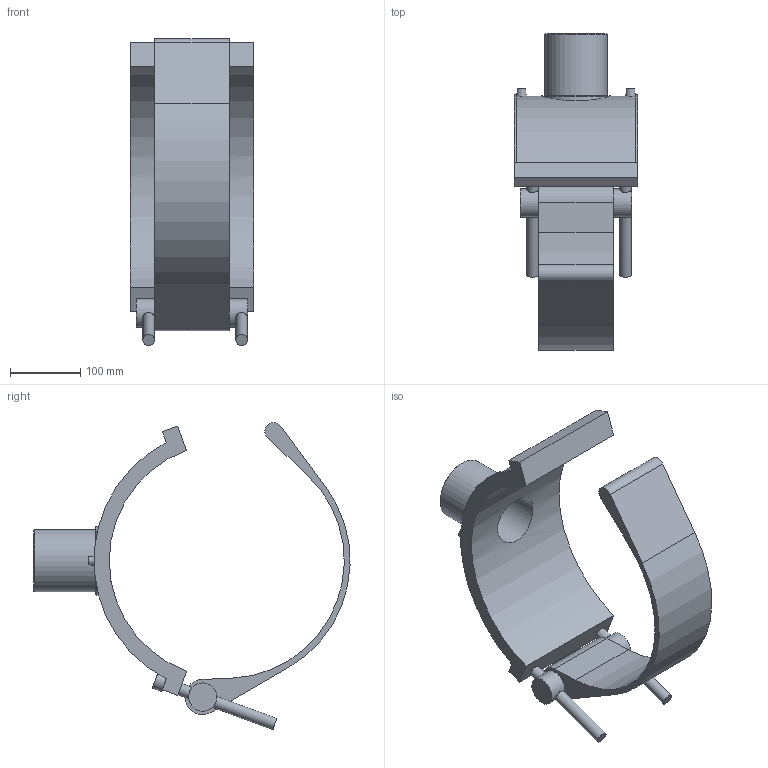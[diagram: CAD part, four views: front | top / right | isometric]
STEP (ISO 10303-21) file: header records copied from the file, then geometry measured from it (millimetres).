
FILE_DESCRIPTION(/* description */ ('PLASSON BRANCH SADDLE 12''''DIPS x 3''''IPS'),/* implementation_level */ '2;1');
FILE_NAME(/* name */ 'C:\Dropbox\KIMPROJECTS-Inventor 2019\99-16-3568-Processing Inch\ASTM ElectroFusion 2021\5958D (2)\5958DB03120030.ipt.stp',/* time_stamp */ '2021-08-30T09:54:39+03:00',/* author */ ('KIM'),/* organization */ (''),/* preprocessor_version */ 'ST-DEVELOPER v17.2',/* originating_system */ 'Autodesk Inventor 2019',/* authorisation */ '');
FILE_SCHEMA (('AUTOMOTIVE_DESIGN { 1 0 10303 214 3 1 1 }'));
Length unit declared in the file: inch
Products named in the file (1): 5958DB03120030
Bounding box: 176.02 x 448.96 x 435.69 mm (x, y, z)
Volume: 2699063.5 mm3; surface area: 397535.6 mm2
Topology: 1 solids, 1 shells, 62 faces, 146 edges, 100 vertices
Faces by surface type: plane 34, cylinder 24, cone 3, torus 1
Full cylindrical faces by diameter (mm): 4 x2, 10 x2, 16.69 x4, 23.366 x2, 40.056 x2, 70.96 x1, 88.7 x1
Entity records: 2238 total; most frequent: CARTESIAN_POINT 726, DIRECTION 309, ORIENTED_EDGE 292, EDGE_CURVE 146, AXIS2_PLACEMENT_3D 121, VERTEX_POINT 100, EDGE_LOOP 80, LINE 67
